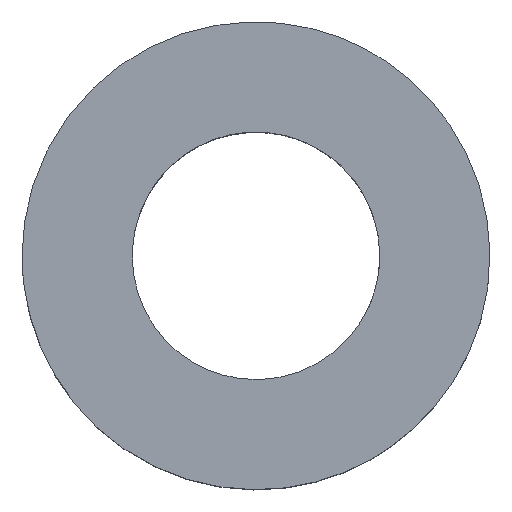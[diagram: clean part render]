
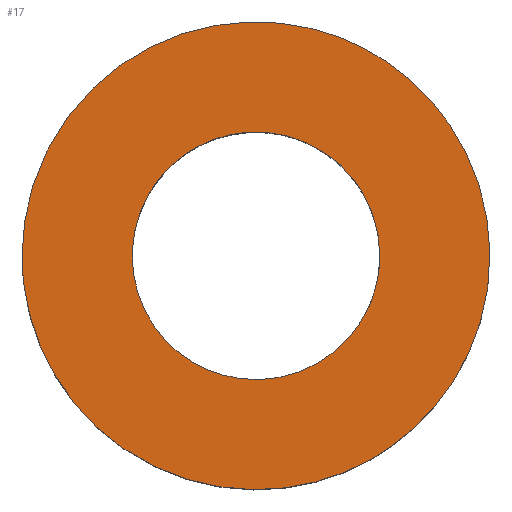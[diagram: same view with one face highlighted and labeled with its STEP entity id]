
A CAD part, top view. The second image highlights one B-rep face of the part: STEP entity #17.
In plain terms, the highlighted free-form (B-spline) face has degree [1, 1] with [2, 2] control points.
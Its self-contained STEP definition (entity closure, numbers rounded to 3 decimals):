
#17 = ADVANCED_FACE('',(#18,#32),#46,.T.);
#18 = FACE_BOUND('',#19,.T.);
#19 = EDGE_LOOP('',(#20));
#20 = ORIENTED_EDGE('',*,*,#21,.F.);
#21 = EDGE_CURVE('',#22,#22,#24,.T.);
#22 = VERTEX_POINT('',#23);
#23 = CARTESIAN_POINT('',(1.35,0.,2.));
#24 = ( BOUNDED_CURVE() B_SPLINE_CURVE(2,(#25,#26,#27,#28,#29,#30,#31),
.UNSPECIFIED.,.T.,.F.) B_SPLINE_CURVE_WITH_KNOTS((1,2,2,2,2,1),(
    -2.094,0.,2.094,4.189,6.283,
8.378),.UNSPECIFIED.) CURVE() GEOMETRIC_REPRESENTATION_ITEM() 
RATIONAL_B_SPLINE_CURVE((1.,0.5,1.,0.5,1.,0.5,1.)) REPRESENTATION_ITEM(
  '') );
#25 = CARTESIAN_POINT('',(1.35,0.,2.));
#26 = CARTESIAN_POINT('',(1.35,2.338,2.));
#27 = CARTESIAN_POINT('',(-0.675,1.169,2.));
#28 = CARTESIAN_POINT('',(-2.7,0.,2.));
#29 = CARTESIAN_POINT('',(-0.675,-1.169,2.));
#30 = CARTESIAN_POINT('',(1.35,-2.338,2.));
#31 = CARTESIAN_POINT('',(1.35,0.,2.));
#32 = FACE_BOUND('',#33,.T.);
#33 = EDGE_LOOP('',(#34));
#34 = ORIENTED_EDGE('',*,*,#35,.F.);
#35 = EDGE_CURVE('',#36,#36,#38,.T.);
#36 = VERTEX_POINT('',#37);
#37 = CARTESIAN_POINT('',(-2.55,0.,2.));
#38 = ( BOUNDED_CURVE() B_SPLINE_CURVE(2,(#39,#40,#41,#42,#43,#44,#45),
.UNSPECIFIED.,.T.,.F.) B_SPLINE_CURVE_WITH_KNOTS((1,2,2,2,2,1),(
    -2.094,0.,2.094,4.189,6.283,
8.378),.UNSPECIFIED.) CURVE() GEOMETRIC_REPRESENTATION_ITEM() 
RATIONAL_B_SPLINE_CURVE((1.,0.5,1.,0.5,1.,0.5,1.)) REPRESENTATION_ITEM(
  '') );
#39 = CARTESIAN_POINT('',(-2.55,0.,2.));
#40 = CARTESIAN_POINT('',(-2.55,4.417,2.));
#41 = CARTESIAN_POINT('',(1.275,2.208,2.));
#42 = CARTESIAN_POINT('',(5.1,0.,2.));
#43 = CARTESIAN_POINT('',(1.275,-2.208,2.));
#44 = CARTESIAN_POINT('',(-2.55,-4.417,2.));
#45 = CARTESIAN_POINT('',(-2.55,0.,2.));
#46 = B_SPLINE_SURFACE_WITH_KNOTS('',1,1,(
    (#47,#48)
    ,(#49,#50
    )),.UNSPECIFIED.,.F.,.F.,.F.,(2,2),(2,2),(0.,5.1),(
    -2.55,2.55),.PIECEWISE_BEZIER_KNOTS.);
#47 = CARTESIAN_POINT('',(-2.55,-2.55,2.));
#48 = CARTESIAN_POINT('',(-2.55,2.55,2.));
#49 = CARTESIAN_POINT('',(2.55,-2.55,2.));
#50 = CARTESIAN_POINT('',(2.55,2.55,2.));
